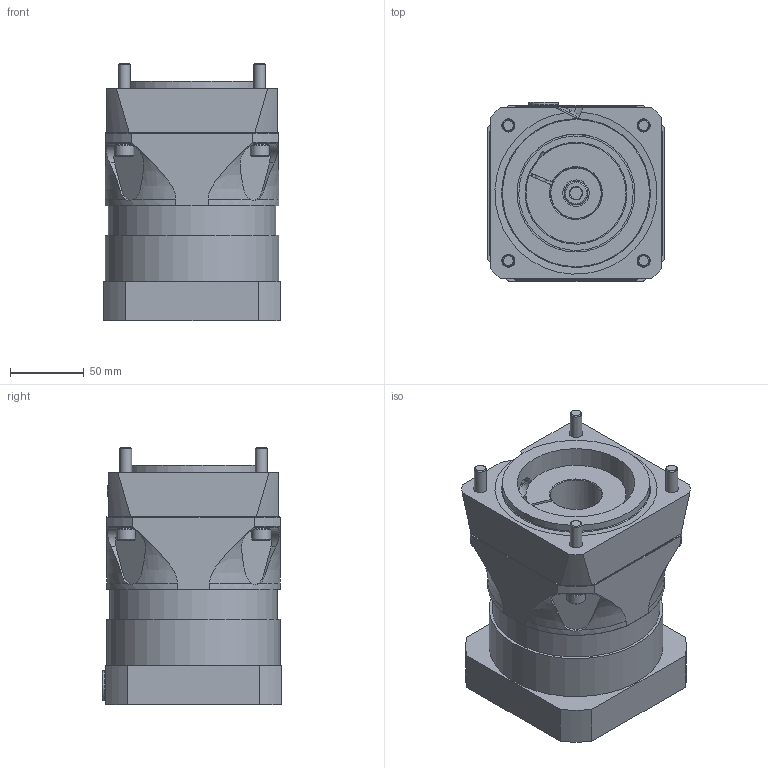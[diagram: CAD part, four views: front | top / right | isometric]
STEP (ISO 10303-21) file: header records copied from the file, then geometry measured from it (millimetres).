
FILE_DESCRIPTION (( 'STEP AP214' ), '1' );
FILE_NAME ('EPL-U-118-M2266-H1406 (24mm).STEP', '2024-10-25T16:35:41', ( '' ), ( '' ), 'SwSTEP 2.0', 'SolidWorks 2020', '' );
FILE_SCHEMA (( 'AUTOMOTIVE_DESIGN' ));
Length unit declared in the file: millimetre
Products named in the file (14): 47050004 BVL M10 10x16x1.00mm ST; 55012117 EPL-U-118 to Macron 80-50 Adapter; 47050011 BVL M6 6x10x0.70mm ST; 51020002 M16 Threaded Plug; 4506XXXX M6 SHCS_M6 X 75                                            ; EPL-U-118_EPL-U-118-I 24mm; 55010036; H1406_EPL-U-118; 23050075 EPL-U-118 to Macron 80-50 1.3750in Shaft; 51040002 14mm Plug; EPL-U-118-M2266-H1406 (24mm); 4510XXXX M10 SHCS_M10 X 30; 47050012 BVL M8 8x13x0.80mm ST; 4508XXXX M8 SHCS_M8 X 55
Assembly tree (25 placements, depth 3):
  EPL-U-118-M2266-H1406 (24mm)
    EPL-U-118_EPL-U-118-I 24mm
    55010036
    4506XXXX M6 SHCS_M6 X 75                                              x4
    47050011 BVL M6 6x10x0.70mm ST  x4
    51040002 14mm Plug
    H1406_EPL-U-118
      47050012 BVL M8 8x13x0.80mm ST  x4
      4508XXXX M8 SHCS_M8 X 55  x4
      4510XXXX M10 SHCS_M10 X 30
      47050004 BVL M10 10x16x1.00mm ST
      55012117 EPL-U-118 to Macron 80-50 Adapter
      51020002 M16 Threaded Plug
      23050075 EPL-U-118 to Macron 80-50 1.3750in Shaft
Bounding box: 120 x 122 x 174.87 mm (x, y, z)
Volume: 1090283.4 mm3; surface area: 349620.4 mm2
Topology: 47 solids, 59 shells, 3344 faces, 9196 edges, 6014 vertices
Faces by surface type: cone 1339, bspline 1063, plane 645, cylinder 254, torus 32, sphere 11
Full cylindrical faces by diameter (mm): 2.5 x4, 2.8 x1, 4 x1, 4.5 x1, 5 x4, 5.2 x8, 6 x26, 6.5 x8, 6.65 x6, 6.8 x10, 7 x1, 8 x12, 9 x10, 10 x8, 11 x9, 12 x1, 12.5 x1, 13 x6, 13.5 x1, 14 x4, 16 x3, 18 x2, 20 x3, 24 x1, 24.5 x1, 34.925 x1, 35 x1, 35.175 x1, 35.922 x1, 39.108 x1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
Entity records: 61058 total; most frequent: CARTESIAN_POINT 25153, ORIENTED_EDGE 7818, DIRECTION 5896, EDGE_CURVE 3911, VERTEX_POINT 2685, AXIS2_PLACEMENT_3D 2677, EDGE_LOOP 2110, B_SPLINE_CURVE_WITH_KNOTS 1972
